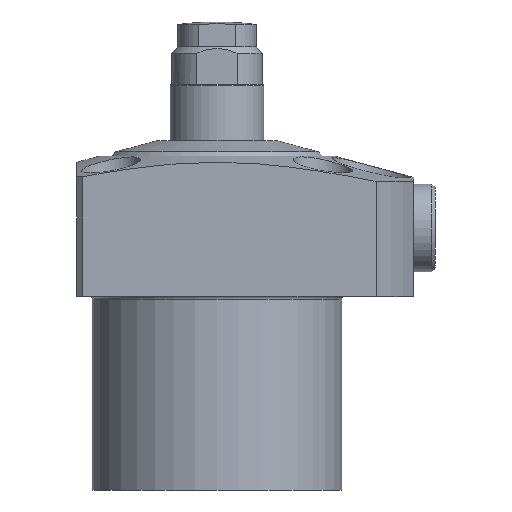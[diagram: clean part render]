
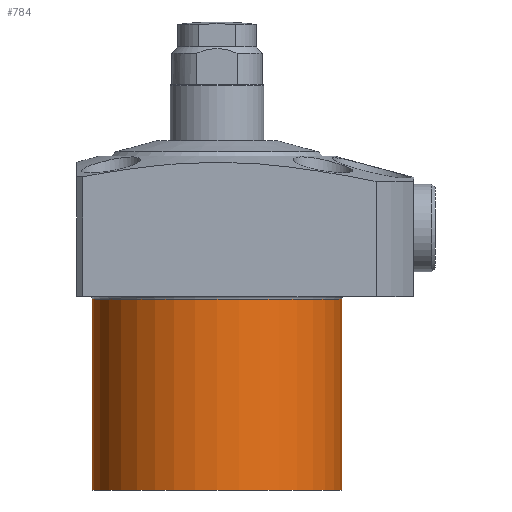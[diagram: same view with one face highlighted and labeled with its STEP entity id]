
A CAD part, front view. The second image highlights one B-rep face of the part: STEP entity #784.
In plain terms, the highlighted cylindrical face has radius 20 mm (diameter 40 mm), a partial arc.
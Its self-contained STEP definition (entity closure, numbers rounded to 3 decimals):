
#784=ADVANCED_FACE('',(#943),#849,.T.);
#849=CYLINDRICAL_SURFACE('',#2626,20.);
#943=FACE_OUTER_BOUND('',#1072,.T.);
#1072=EDGE_LOOP('',(#1761,#1762,#1763,#1764));
#1216=LINE('',#3795,#1343);
#1217=LINE('',#3797,#1344);
#1343=VECTOR('',#3068,1.);
#1344=VECTOR('',#3071,1.);
#1761=ORIENTED_EDGE('',*,*,#2248,.F.);
#1762=ORIENTED_EDGE('',*,*,#2308,.T.);
#1763=ORIENTED_EDGE('',*,*,#2250,.T.);
#1764=ORIENTED_EDGE('',*,*,#2182,.T.);
#1973=VERTEX_POINT('',#3541);
#1974=VERTEX_POINT('',#3543);
#2036=VERTEX_POINT('',#3793);
#2037=VERTEX_POINT('',#3794);
#2182=EDGE_CURVE('',#1974,#1973,#2377,.T.);
#2248=EDGE_CURVE('',#2037,#1973,#1216,.T.);
#2250=EDGE_CURVE('',#2036,#1974,#1217,.T.);
#2308=EDGE_CURVE('',#2037,#2036,#2426,.T.);
#2377=CIRCLE('',#2543,20.);
#2426=CIRCLE('',#2624,20.);
#2543=AXIS2_PLACEMENT_3D('',#3542,#2947,#2948);
#2624=AXIS2_PLACEMENT_3D('',#4027,#3164,#3165);
#2626=AXIS2_PLACEMENT_3D('',#4029,#3168,#3169);
#2947=DIRECTION('',(0.,0.,-1.));
#2948=DIRECTION('',(1.,0.,0.));
#3068=DIRECTION('',(0.,0.,1.));
#3071=DIRECTION('',(0.,0.,1.));
#3164=DIRECTION('',(0.,0.,1.));
#3165=DIRECTION('',(1.,0.,0.));
#3168=DIRECTION('',(0.,0.,1.));
#3169=DIRECTION('',(-1.,0.,0.));
#3541=CARTESIAN_POINT('',(-20.,0.,-0.4));
#3542=CARTESIAN_POINT('',(0.,0.,-0.4));
#3543=CARTESIAN_POINT('',(20.,0.,-0.4));
#3793=CARTESIAN_POINT('',(20.,0.,-31.));
#3794=CARTESIAN_POINT('',(-20.,0.,-31.));
#3795=CARTESIAN_POINT('',(-20.,0.,30.));
#3797=CARTESIAN_POINT('',(20.,0.,30.));
#4027=CARTESIAN_POINT('',(0.,0.,-31.));
#4029=CARTESIAN_POINT('',(0.,0.,30.));
